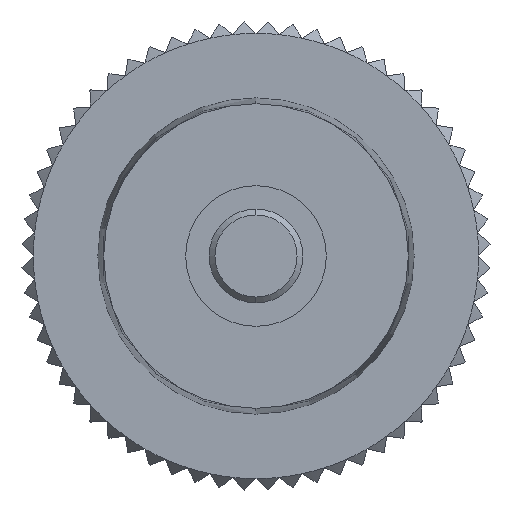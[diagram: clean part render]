
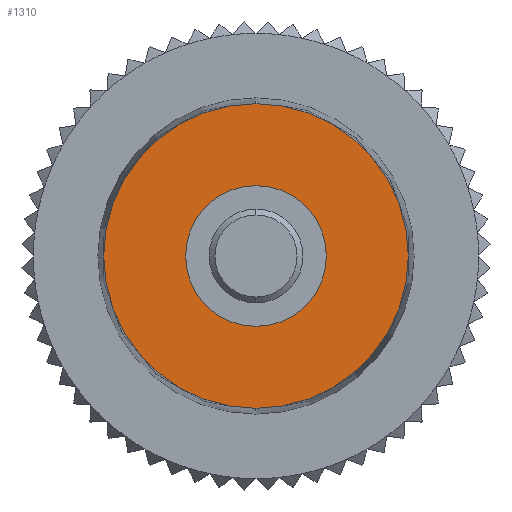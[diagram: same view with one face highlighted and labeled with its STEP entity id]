
A CAD part, front view. The second image highlights one B-rep face of the part: STEP entity #1310.
In plain terms, the highlighted planar face has unit normal (0, -1, 0).
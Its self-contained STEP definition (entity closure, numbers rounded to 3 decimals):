
#936 = VERTEX_POINT ( 'NONE', #4552 ) ;
#940 = EDGE_CURVE ( 'NONE', #936, #941, #4547, .T. ) ;
#941 = VERTEX_POINT ( 'NONE', #4542 ) ;
#1008 = EDGE_CURVE ( 'NONE', #1009, #1010, #4662, .T. ) ;
#1009 = VERTEX_POINT ( 'NONE', #4658 ) ;
#1010 = VERTEX_POINT ( 'NONE', #4657 ) ;
#1310 = ADVANCED_FACE ( 'NONE', ( #5286, #5285 ), #5345, .T. ) ;
#1311 = EDGE_LOOP ( 'NONE', ( #1312, #1314 ) ) ;
#1312 = ORIENTED_EDGE ( 'NONE', *, *, #1313, .F. ) ;
#1313 = EDGE_CURVE ( 'NONE', #941, #936, #5340, .T. ) ;
#1314 = ORIENTED_EDGE ( 'NONE', *, *, #940, .F. ) ;
#1315 = EDGE_LOOP ( 'NONE', ( #1316, #1318 ) ) ;
#1316 = ORIENTED_EDGE ( 'NONE', *, *, #1317, .T. ) ;
#1317 = EDGE_CURVE ( 'NONE', #1010, #1009, #5334, .T. ) ;
#1318 = ORIENTED_EDGE ( 'NONE', *, *, #1008, .T. ) ;
#4542 = CARTESIAN_POINT ( 'NONE',  ( 0., 0., -3. ) ) ;
#4543 = DIRECTION ( 'NONE',  ( 0., 0., -1. ) ) ;
#4544 = DIRECTION ( 'NONE',  ( 0., -1., 0. ) ) ;
#4545 = CARTESIAN_POINT ( 'NONE',  ( 0., 0., 0. ) ) ;
#4546 = AXIS2_PLACEMENT_3D ( 'NONE', #4545, #4544, #4543 ) ;
#4547 = CIRCLE ( 'NONE', #4546, 3. ) ;
#4552 = CARTESIAN_POINT ( 'NONE',  ( 0., 0., 3. ) ) ;
#4657 = CARTESIAN_POINT ( 'NONE',  ( 0., 0., 6.5 ) ) ;
#4658 = CARTESIAN_POINT ( 'NONE',  ( 0., 0., -6.5 ) ) ;
#4659 = DIRECTION ( 'NONE',  ( 0., 0., -1. ) ) ;
#4660 = DIRECTION ( 'NONE',  ( 0., -1., 0. ) ) ;
#4661 = AXIS2_PLACEMENT_3D ( 'NONE', #4668, #4660, #4659 ) ;
#4662 = CIRCLE ( 'NONE', #4661, 6.5 ) ;
#4668 = CARTESIAN_POINT ( 'NONE',  ( 0., 0., 0. ) ) ;
#5285 = FACE_OUTER_BOUND ( 'NONE', #1315, .T. ) ;
#5286 = FACE_BOUND ( 'NONE', #1311, .T. ) ;
#5330 = DIRECTION ( 'NONE',  ( 0., 0., -1. ) ) ;
#5331 = DIRECTION ( 'NONE',  ( 0., -1., 0. ) ) ;
#5332 = CARTESIAN_POINT ( 'NONE',  ( 0., 0., 0. ) ) ;
#5333 = AXIS2_PLACEMENT_3D ( 'NONE', #5332, #5331, #5330 ) ;
#5334 = CIRCLE ( 'NONE', #5333, 6.5 ) ;
#5336 = DIRECTION ( 'NONE',  ( 0., 0., -1. ) ) ;
#5337 = DIRECTION ( 'NONE',  ( 0., -1., 0. ) ) ;
#5338 = CARTESIAN_POINT ( 'NONE',  ( 0., 0., 0. ) ) ;
#5339 = AXIS2_PLACEMENT_3D ( 'NONE', #5338, #5337, #5336 ) ;
#5340 = CIRCLE ( 'NONE', #5339, 3. ) ;
#5341 = DIRECTION ( 'NONE',  ( 0., 0., -1. ) ) ;
#5342 = DIRECTION ( 'NONE',  ( 0., -1., 0. ) ) ;
#5343 = CARTESIAN_POINT ( 'NONE',  ( 0., 0., 0. ) ) ;
#5344 = AXIS2_PLACEMENT_3D ( 'NONE', #5343, #5342, #5341 ) ;
#5345 = PLANE ( 'NONE',  #5344 ) ;
